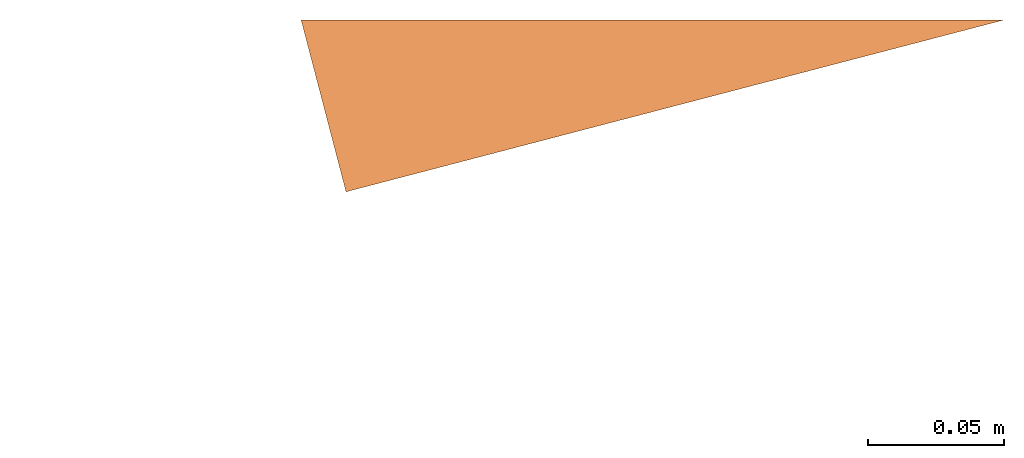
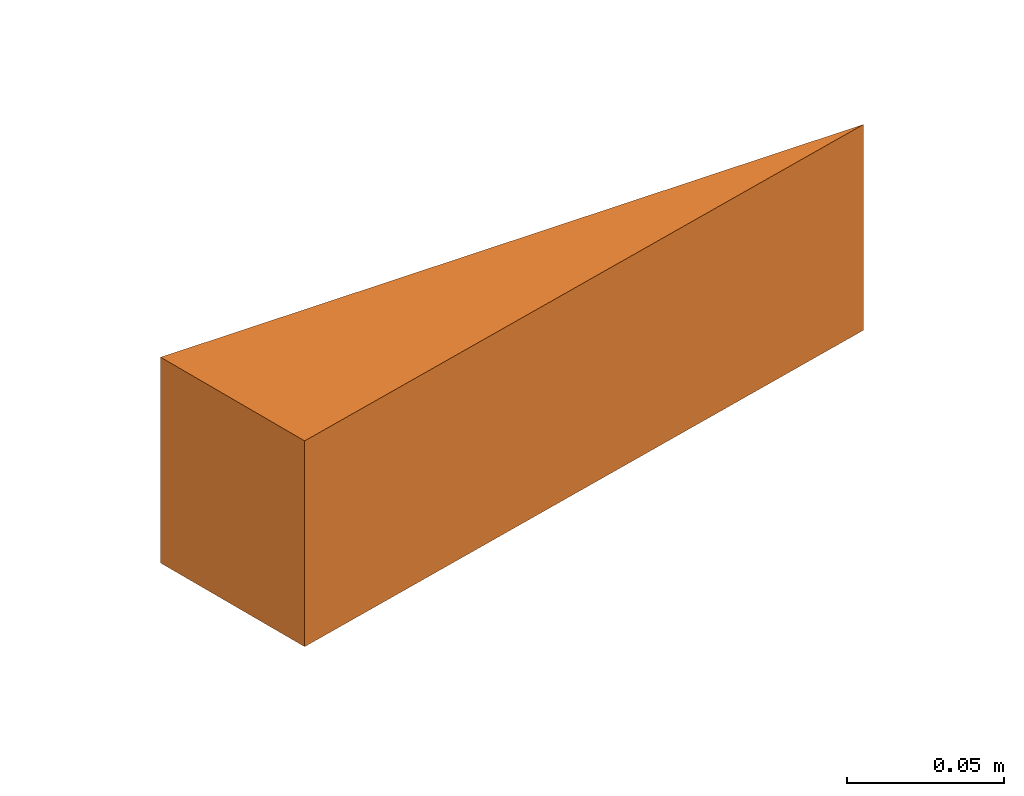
# One storey, part 3 of 31: 1 proxy.
"""IFC2X3 building model written with IfcOpenShell, lengths in centimetres."""

from ifc_helpers import new_model, entity, si_unit, converted_unit, derived_unit, direction, frame, origin, place, context, subcontext, project, spatial, polyline, outline, extrude, source, transform, mapped, material, type_object, type_shapes, element, save


model = new_model("IFC2X3")

# Units and contexts
model_context = context("Model", 3, precision=0.001, world=origin(), true_north=direction((6.12303176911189e-17, 1.0)))
body_context = subcontext(model_context, "Body", "Model", "MODEL_VIEW")
ifc_project = project(units=[si_unit("LENGTHUNIT", "METRE", prefix="CENTI"), si_unit("AREAUNIT", "SQUARE_METRE"), si_unit("VOLUMEUNIT", "CUBIC_METRE"), converted_unit("PLANEANGLEUNIT", "DEGREE", entity("IfcRatioMeasure", 0.0174532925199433), si_unit("PLANEANGLEUNIT", "RADIAN"), dimensions=[0, 0, 0, 0, 0, 0, 0]), si_unit("MASSUNIT", "GRAM", prefix="KILO"), derived_unit("MASSDENSITYUNIT", [(si_unit("MASSUNIT", "GRAM", prefix="KILO"), 1), (si_unit("LENGTHUNIT", "METRE"), -3)]), si_unit("TIMEUNIT", "SECOND"), si_unit("FREQUENCYUNIT", "HERTZ"), si_unit("THERMODYNAMICTEMPERATUREUNIT", "DEGREE_CELSIUS"), derived_unit("THERMALTRANSMITTANCEUNIT", [(si_unit("MASSUNIT", "GRAM", prefix="KILO"), 1), (si_unit("THERMODYNAMICTEMPERATUREUNIT", "KELVIN"), -1), (si_unit("TIMEUNIT", "SECOND"), -3)]), derived_unit("VOLUMETRICFLOWRATEUNIT", [(si_unit("LENGTHUNIT", "METRE"), 3), (si_unit("TIMEUNIT", "SECOND"), -1)]), si_unit("ELECTRICCURRENTUNIT", "AMPERE"), si_unit("ELECTRICVOLTAGEUNIT", "VOLT"), si_unit("POWERUNIT", "WATT"), si_unit("FORCEUNIT", "NEWTON"), si_unit("ILLUMINANCEUNIT", "LUX"), si_unit("LUMINOUSFLUXUNIT", "LUMEN"), si_unit("LUMINOUSINTENSITYUNIT", "CANDELA"), derived_unit("USERDEFINED", [(si_unit("MASSUNIT", "GRAM", prefix="KILO"), -1), (si_unit("LENGTHUNIT", "METRE"), -2), (si_unit("TIMEUNIT", "SECOND"), 3), (si_unit("LUMINOUSFLUXUNIT", "LUMEN"), 1)]), derived_unit("LINEARVELOCITYUNIT", [(si_unit("LENGTHUNIT", "METRE"), 1), (si_unit("TIMEUNIT", "SECOND"), -1)]), si_unit("PRESSUREUNIT", "PASCAL"), derived_unit("USERDEFINED", [(si_unit("LENGTHUNIT", "METRE"), -2), (si_unit("MASSUNIT", "GRAM", prefix="KILO"), 1), (si_unit("TIMEUNIT", "SECOND"), -2)])], contexts=[model_context])

# Site, building, storey
site_placement = place(None, origin())
site = spatial("IfcSite", under=ifc_project, at=site_placement, Name="Default", CompositionType="ELEMENT")
building_placement = place(site_placement, origin())
building = spatial("IfcBuilding", under=site, at=building_placement, Name="CAGE 03", CompositionType="ELEMENT")
storey_placement = place(building_placement, frame((0.0, 0.0, -400.0)))
storey = spatial("IfcBuildingStorey", under=building, at=storey_placement, Name="±0.00", CompositionType="ELEMENT", Elevation=-400.0)

# Proxy
ifc_material = material(Name="Béton, C25/30")
building_element_proxy_type = type_object("IfcBuildingElementProxyType", Name="Ossature 1", PredefinedType="NOTDEFINED", material=ifc_material)
shared_shape = source(origin(), body_context, "Body", "SweptSolid", [
    extrude(outline(polyline([(-8.33333333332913, -2.17628454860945), (16.6666666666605, -2.17628454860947), (-8.33333333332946, 4.35256909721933), (-8.33333333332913, -2.17628454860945)])), frame((11304.1311985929, 5035.05500199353, -135.0), z_axis=(0.0, 0.0, 1.0), x_axis=(0.967549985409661, 0.25267968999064, 0.0)), (0.0, 0.0, 1.0), 7.99999999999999),
])
type_shapes(building_element_proxy_type, [shared_shape])
proxy_placement = place(storey_placement, frame((0.0, 0.0, 400.0)))
element("IfcBuildingElementProxy", 1, at=proxy_placement, inside=storey, type_object=building_element_proxy_type, material=ifc_material, Name="Ossature 2:Ossature 1", ObjectType="Ossature 1", context=body_context, shape_type="MappedRepresentation", body=[
    mapped(shared_shape, transform((0.0, 0.0, 0.0), scale=1.0)),
])

save(model, "model.ifc")
